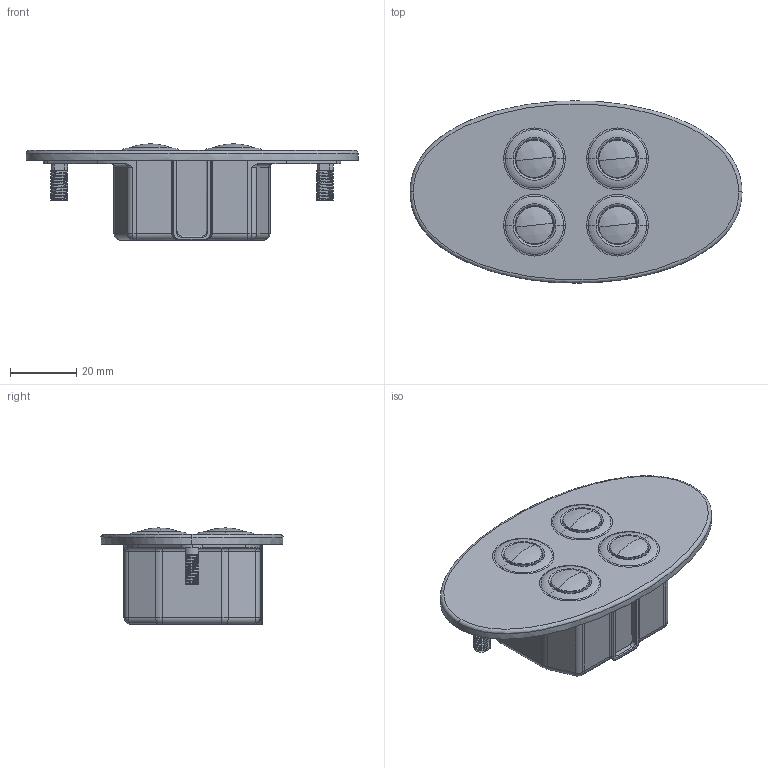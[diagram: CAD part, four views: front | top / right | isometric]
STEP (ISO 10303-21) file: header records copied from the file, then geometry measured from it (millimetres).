
FILE_DESCRIPTION (( 'STEP AP214' ), '1' );
FILE_NAME ('TFH4-A.STEP', '2015-06-03T09:37:03', ( '' ), ( '' ), 'SwSTEP 2.0', 'SolidWorks 2010', '' );
FILE_SCHEMA (( 'AUTOMOTIVE_DESIGN' ));
Length unit declared in the file: millimetre
Products named in the file (1): TFH4-A
Bounding box: 100 x 54.85 x 29 mm (x, y, z)
Volume: 59196.4 mm3; surface area: 21311.4 mm2
Topology: 7 solids, 7 shells, 405 faces, 1009 edges, 639 vertices
Faces by surface type: cylinder 177, plane 147, torus 57, sphere 14, bspline 10
Entity records: 34494 total; most frequent: CARTESIAN_POINT 20651, ORIENTED_EDGE 2014, DIRECTION 1894, EDGE_CURVE 1007, AXIS2_PLACEMENT_3D 734, VERTEX_POINT 639, EDGE_LOOP 440, LINE 426
